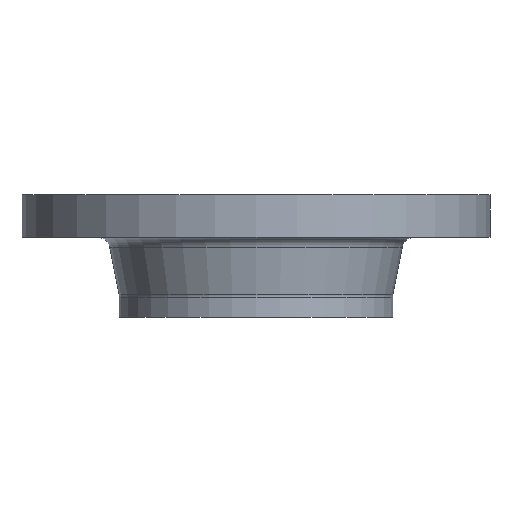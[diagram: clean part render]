
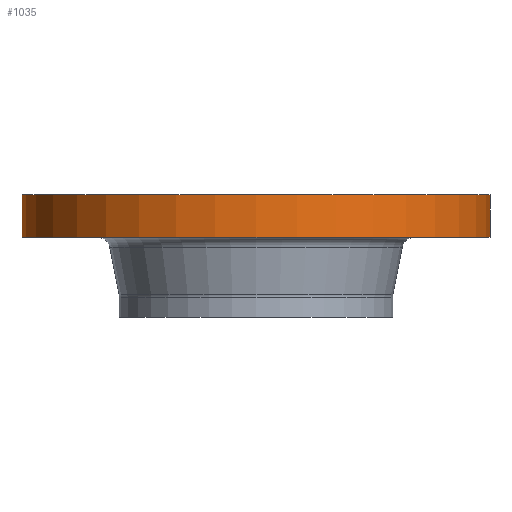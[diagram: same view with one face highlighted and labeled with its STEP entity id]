
A CAD part, front view. The second image highlights one B-rep face of the part: STEP entity #1035.
In plain terms, the highlighted cylindrical face has radius 187.5 mm (diameter 375 mm), a partial arc.
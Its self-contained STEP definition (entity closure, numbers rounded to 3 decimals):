
#84 = VECTOR ( 'NONE', #690, 1000. ) ;
#163 = CARTESIAN_POINT ( 'NONE',  ( 187.5, 0., -34. ) ) ;
#189 = EDGE_CURVE ( 'NONE', #1157, #1106, #693, .T. ) ;
#192 = CARTESIAN_POINT ( 'NONE',  ( -187.5, 0., -34. ) ) ;
#193 = CARTESIAN_POINT ( 'NONE',  ( 187.5, 0., 0. ) ) ;
#258 = CARTESIAN_POINT ( 'NONE',  ( -187.5, 0., 0. ) ) ;
#290 = DIRECTION ( 'NONE',  ( 1., 0., 0. ) ) ;
#292 = DIRECTION ( 'NONE',  ( 0., 0., 1. ) ) ;
#293 = CARTESIAN_POINT ( 'NONE',  ( 0., 0., -34. ) ) ;
#296 = AXIS2_PLACEMENT_3D ( 'NONE', #485, #484, #483 ) ;
#300 = CIRCLE ( 'NONE', #296, 187.5 ) ;
#302 = VECTOR ( 'NONE', #486, 1000. ) ;
#388 = DIRECTION ( 'NONE',  ( 1., 0., 0. ) ) ;
#389 = DIRECTION ( 'NONE',  ( 0., 0., 1. ) ) ;
#390 = CARTESIAN_POINT ( 'NONE',  ( 0., 0., -98. ) ) ;
#392 = CYLINDRICAL_SURFACE ( 'NONE', #822, 187.5 ) ;
#394 = FACE_OUTER_BOUND ( 'NONE', #1038, .T. ) ;
#440 = AXIS2_PLACEMENT_3D ( 'NONE', #293, #292, #290 ) ;
#457 = CIRCLE ( 'NONE', #440, 187.5 ) ;
#483 = DIRECTION ( 'NONE',  ( 1., 0., 0. ) ) ;
#484 = DIRECTION ( 'NONE',  ( 0., 0., 1. ) ) ;
#485 = CARTESIAN_POINT ( 'NONE',  ( 0., 0., 0. ) ) ;
#486 = DIRECTION ( 'NONE',  ( 0., 0., 1. ) ) ;
#487 = CARTESIAN_POINT ( 'NONE',  ( 187.5, 0., -98. ) ) ;
#488 = LINE ( 'NONE', #487, #302 ) ;
#690 = DIRECTION ( 'NONE',  ( 0., 0., 1. ) ) ;
#691 = CARTESIAN_POINT ( 'NONE',  ( -187.5, 0., -98. ) ) ;
#693 = LINE ( 'NONE', #691, #84 ) ;
#810 = EDGE_CURVE ( 'NONE', #1177, #1156, #488, .T. ) ;
#812 = EDGE_CURVE ( 'NONE', #1106, #1156, #300, .T. ) ;
#822 = AXIS2_PLACEMENT_3D ( 'NONE', #390, #389, #388 ) ;
#835 = ORIENTED_EDGE ( 'NONE', *, *, #189, .F. ) ;
#836 = ORIENTED_EDGE ( 'NONE', *, *, #1087, .T. ) ;
#837 = ORIENTED_EDGE ( 'NONE', *, *, #810, .T. ) ;
#840 = ORIENTED_EDGE ( 'NONE', *, *, #812, .F. ) ;
#1035 = ADVANCED_FACE ( 'NONE', ( #394 ), #392, .T. ) ;
#1038 = EDGE_LOOP ( 'NONE', ( #835, #836, #837, #840 ) ) ;
#1087 = EDGE_CURVE ( 'NONE', #1157, #1177, #457, .T. ) ;
#1106 = VERTEX_POINT ( 'NONE', #258 ) ;
#1156 = VERTEX_POINT ( 'NONE', #193 ) ;
#1157 = VERTEX_POINT ( 'NONE', #192 ) ;
#1177 = VERTEX_POINT ( 'NONE', #163 ) ;
